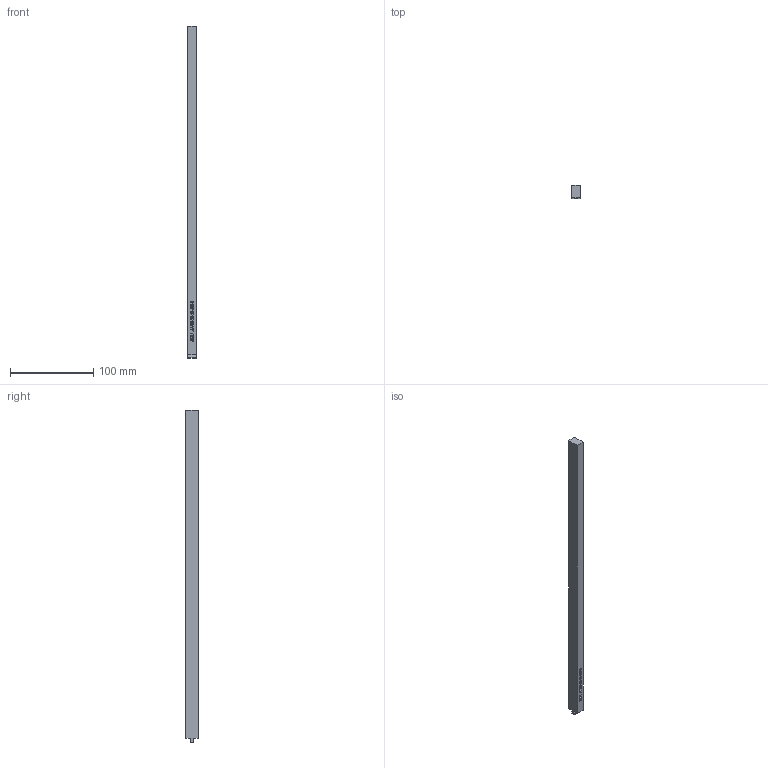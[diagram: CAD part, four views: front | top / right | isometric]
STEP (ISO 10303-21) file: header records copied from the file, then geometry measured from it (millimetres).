
FILE_DESCRIPTION (( 'STEP AP203' ), '1' );
FILE_NAME ('ALBD-10-15-400-5.STEP', '2021-01-11T20:29:48', ( '' ), ( '' ), 'SwSTEP 2.0', 'SolidWorks 2020', '' );
FILE_SCHEMA (( 'CONFIG_CONTROL_DESIGN' ));
Length unit declared in the file: millimetre
Products named in the file (1): ALBD-10-15-400-5
Bounding box: 10 x 15 x 400 mm (x, y, z)
Volume: 59453.5 mm3; surface area: 20238.1 mm2
Topology: 1 solids, 1 shells, 184 faces, 462 edges, 308 vertices
Faces by surface type: plane 145, bspline 39
Entity records: 6761 total; most frequent: CARTESIAN_POINT 2526, ORIENTED_EDGE 924, DIRECTION 676, EDGE_CURVE 462, LINE 384, VECTOR 384, VERTEX_POINT 308, EDGE_LOOP 212
